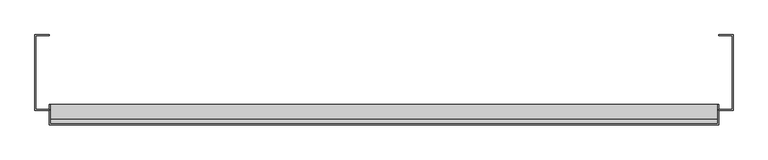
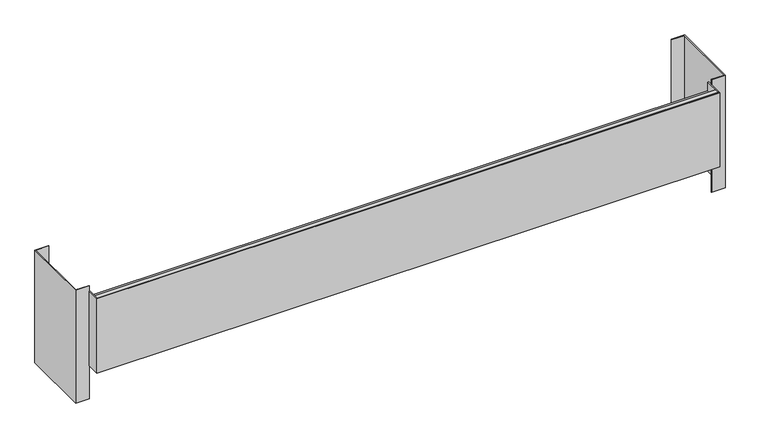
"""IFC4 building model written with IfcOpenShell, lengths in millimetres: furniture geometry."""

from ifc_helpers import new_model, si_unit, frame, origin, place, context, project, spatial, polyline, outline, extrude, source, transform, mapped, element, save


def furniture_df0166ae(model_context):
    return source(origin(), model_context, "Body", "SweptSolid", [
        extrude(outline(polyline([(-762.0, -126.20625), (-730.2500008, -126.20625), (-730.2500008, -127.79375), (-760.4125, -127.79375), (-760.4125, -289.7187621), (-730.2500008, -289.7187621), (-730.2500008, -291.3062621), (-762.0, -291.3062621), (-762.0, -126.20625)])), frame((0.0, 0.0, 215.76538), z_axis=(0.0, 0.0, 1.0), x_axis=(1.0, 0.0, 0.0)), (0.0, 0.0, 1.0), 279.4),
        extrude(outline(polyline([(730.2500121, -126.20625), (762.0, -126.20625), (762.0, -291.3062621), (730.2500121, -291.3062621), (730.2500121, -289.7187621), (760.4125, -289.7187621), (760.4125, -127.79375), (730.2500121, -127.79375), (730.2500121, -126.20625)])), frame((0.0, 0.0, 215.76538), z_axis=(0.0, 0.0, 1.0), x_axis=(1.0, 0.0, 0.0)), (0.0, 0.0, 1.0), 279.4),
        extrude(outline(polyline([(730.2500121, -278.6062561), (730.2500121, -323.05625), (-730.2500008, -323.05625), (-730.2500008, -278.6062561), (-728.6625008, -278.6062561), (-728.6625008, -321.46875), (728.6625121, -321.46875), (728.6625121, -278.6062561), (730.2500121, -278.6062561)])), frame((0.0, 0.0, 298.3153679), z_axis=(0.0, 0.0, 1.0), x_axis=(1.0, 0.0, 0.0)), (0.0, 0.0, 1.0), 184.1500242),
        extrude(outline(polyline([(728.6625121, -311.1182614), (728.6625121, -321.46875), (-728.6625008, -321.46875), (-728.6625008, -311.1182614), (728.6625121, -311.1182614)])), frame((0.0, 0.0, 472.9403921), z_axis=(0.0, 0.0, 1.0), x_axis=(1.0, 0.0, 0.0)), (0.0, 0.0, 1.0), 9.525),
        extrude(outline(polyline([(728.6625121, -278.6062561), (728.6625121, -321.46875), (-728.6625008, -321.46875), (-728.6625008, -278.6062561), (728.6625121, -278.6062561)])), frame((0.0, 0.0, 298.3153679), z_axis=(0.0, 0.0, 1.0), x_axis=(1.0, 0.0, 0.0)), (0.0, 0.0, 1.0), 161.9250363),
    ])


if __name__ == "__main__":
    model = new_model("IFC4")
    model_context = context("Model", 3, world=origin())
    ifc_project = project(units=[si_unit("LENGTHUNIT", "METRE", prefix="MILLI")], contexts=[model_context])
    site = spatial("IfcSite", under=ifc_project)
    building = spatial("IfcBuilding", under=site)
    placement = place(None, origin())
    furniture_shape = furniture_df0166ae(model_context)
    element("IfcFurniture", 1, ObjectType="HermanMiller_CoStruc_C2192_CFrameSupport : 11\"H x 24\"D x 60\"W", at=placement, inside=building, context=model_context, shape_type="MappedRepresentation", body=[
        mapped(furniture_shape, transform((0.0, 0.0, 0.0), x_axis=(1.0, 0.0, 0.0), y_axis=(0.0, 1.0, 0.0), z_axis=(0.0, 0.0, 1.0))),
    ])
    save(model, "model.ifc")
